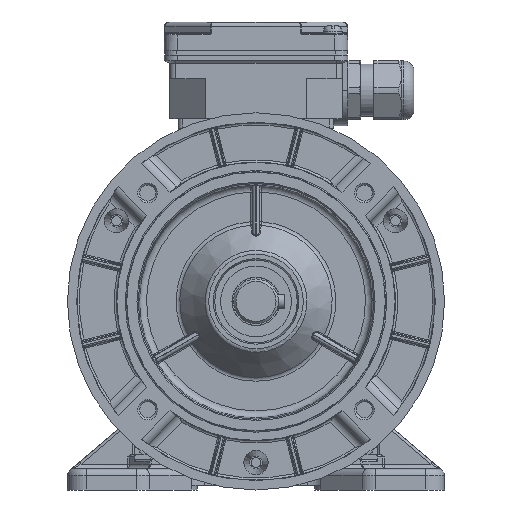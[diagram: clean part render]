
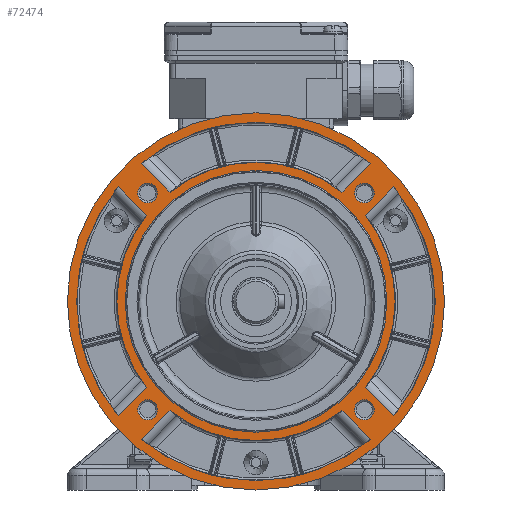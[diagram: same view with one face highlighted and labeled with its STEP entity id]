
A CAD part, left-side view. The second image highlights one B-rep face of the part: STEP entity #72474.
In plain terms, the highlighted planar face has unit normal (-1, 0, 0).
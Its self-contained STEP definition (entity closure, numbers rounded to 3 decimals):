
#4504=CIRCLE('',#76360,80.);
#4520=CIRCLE('',#76398,55.5);
#4521=CIRCLE('',#76399,4.2);
#4522=CIRCLE('',#76400,4.2);
#4523=CIRCLE('',#76401,4.2);
#4524=CIRCLE('',#76402,4.2);
#4525=CIRCLE('',#76403,59.);
#4526=CIRCLE('',#76404,76.);
#4527=CIRCLE('',#76405,59.);
#4528=CIRCLE('',#76406,76.);
#4529=CIRCLE('',#76407,59.);
#4530=CIRCLE('',#76408,76.);
#4531=CIRCLE('',#76409,59.);
#4532=CIRCLE('',#76410,76.);
#11924=ORIENTED_EDGE('',*,*,#25097,.T.);
#11925=ORIENTED_EDGE('',*,*,#25098,.T.);
#11926=ORIENTED_EDGE('',*,*,#25099,.T.);
#11927=ORIENTED_EDGE('',*,*,#25100,.T.);
#11928=ORIENTED_EDGE('',*,*,#25101,.T.);
#11929=ORIENTED_EDGE('',*,*,#25075,.T.);
#11930=ORIENTED_EDGE('',*,*,#25102,.T.);
#11931=ORIENTED_EDGE('',*,*,#25103,.T.);
#11932=ORIENTED_EDGE('',*,*,#25104,.F.);
#11933=ORIENTED_EDGE('',*,*,#25105,.F.);
#11934=ORIENTED_EDGE('',*,*,#25106,.T.);
#11935=ORIENTED_EDGE('',*,*,#25107,.F.);
#11936=ORIENTED_EDGE('',*,*,#25108,.F.);
#11937=ORIENTED_EDGE('',*,*,#25109,.T.);
#11938=ORIENTED_EDGE('',*,*,#25110,.T.);
#11939=ORIENTED_EDGE('',*,*,#25111,.T.);
#11940=ORIENTED_EDGE('',*,*,#25112,.F.);
#11941=ORIENTED_EDGE('',*,*,#25113,.F.);
#11942=ORIENTED_EDGE('',*,*,#25114,.T.);
#11943=ORIENTED_EDGE('',*,*,#25115,.T.);
#11944=ORIENTED_EDGE('',*,*,#25116,.F.);
#11945=ORIENTED_EDGE('',*,*,#25117,.F.);
#25075=EDGE_CURVE('',#32103,#32103,#4504,.T.);
#25097=EDGE_CURVE('',#32109,#32109,#4520,.F.);
#25098=EDGE_CURVE('',#32110,#32110,#4521,.F.);
#25099=EDGE_CURVE('',#32111,#32111,#4522,.F.);
#25100=EDGE_CURVE('',#32112,#32112,#4523,.F.);
#25101=EDGE_CURVE('',#32113,#32113,#4524,.F.);
#25102=EDGE_CURVE('',#32114,#32115,#36648,.T.);
#25103=EDGE_CURVE('',#32115,#32116,#4525,.T.);
#25104=EDGE_CURVE('',#32117,#32116,#36649,.T.);
#25105=EDGE_CURVE('',#32114,#32117,#4526,.T.);
#25106=EDGE_CURVE('',#32118,#32119,#4527,.T.);
#25107=EDGE_CURVE('',#32120,#32119,#36650,.T.);
#25108=EDGE_CURVE('',#32121,#32120,#4528,.T.);
#25109=EDGE_CURVE('',#32121,#32118,#36651,.T.);
#25110=EDGE_CURVE('',#32122,#32123,#36652,.T.);
#25111=EDGE_CURVE('',#32123,#32124,#4529,.T.);
#25112=EDGE_CURVE('',#32125,#32124,#36653,.T.);
#25113=EDGE_CURVE('',#32122,#32125,#4530,.T.);
#25114=EDGE_CURVE('',#32126,#32127,#36654,.T.);
#25115=EDGE_CURVE('',#32127,#32128,#4531,.T.);
#25116=EDGE_CURVE('',#32129,#32128,#36655,.T.);
#25117=EDGE_CURVE('',#32126,#32129,#4532,.T.);
#32103=VERTEX_POINT('',#107177);
#32109=VERTEX_POINT('',#107239);
#32110=VERTEX_POINT('',#107241);
#32111=VERTEX_POINT('',#107243);
#32112=VERTEX_POINT('',#107245);
#32113=VERTEX_POINT('',#107247);
#32114=VERTEX_POINT('',#107249);
#32115=VERTEX_POINT('',#107250);
#32116=VERTEX_POINT('',#107252);
#32117=VERTEX_POINT('',#107254);
#32118=VERTEX_POINT('',#107257);
#32119=VERTEX_POINT('',#107258);
#32120=VERTEX_POINT('',#107260);
#32121=VERTEX_POINT('',#107262);
#32122=VERTEX_POINT('',#107265);
#32123=VERTEX_POINT('',#107266);
#32124=VERTEX_POINT('',#107268);
#32125=VERTEX_POINT('',#107270);
#32126=VERTEX_POINT('',#107273);
#32127=VERTEX_POINT('',#107274);
#32128=VERTEX_POINT('',#107276);
#32129=VERTEX_POINT('',#107278);
#36648=LINE('',#107248,#40358);
#36649=LINE('',#107253,#40359);
#36650=LINE('',#107259,#40360);
#36651=LINE('',#107263,#40361);
#36652=LINE('',#107264,#40362);
#36653=LINE('',#107269,#40363);
#36654=LINE('',#107272,#40364);
#36655=LINE('',#107277,#40365);
#40358=VECTOR('',#84981,1000.);
#40359=VECTOR('',#84984,1000.);
#40360=VECTOR('',#84989,1000.);
#40361=VECTOR('',#84992,1000.);
#40362=VECTOR('',#84993,1000.);
#40363=VECTOR('',#84996,1000.);
#40364=VECTOR('',#84999,1000.);
#40365=VECTOR('',#85002,1000.);
#44085=EDGE_LOOP('',(#11924));
#44086=EDGE_LOOP('',(#11925));
#44087=EDGE_LOOP('',(#11926));
#44088=EDGE_LOOP('',(#11927));
#44089=EDGE_LOOP('',(#11928));
#44090=EDGE_LOOP('',(#11929));
#44091=EDGE_LOOP('',(#11930,#11931,#11932,#11933));
#44092=EDGE_LOOP('',(#11934,#11935,#11936,#11937));
#44093=EDGE_LOOP('',(#11938,#11939,#11940,#11941));
#44094=EDGE_LOOP('',(#11942,#11943,#11944,#11945));
#47640=FACE_BOUND('',#44085,.T.);
#47641=FACE_BOUND('',#44086,.T.);
#47642=FACE_BOUND('',#44087,.T.);
#47643=FACE_BOUND('',#44088,.T.);
#47644=FACE_BOUND('',#44089,.T.);
#47645=FACE_BOUND('',#44090,.T.);
#47646=FACE_BOUND('',#44091,.T.);
#47647=FACE_BOUND('',#44092,.T.);
#47648=FACE_BOUND('',#44093,.T.);
#47649=FACE_BOUND('',#44094,.T.);
#50451=PLANE('',#76397);
#72474=ADVANCED_FACE('',(#47640,#47641,#47642,#47643,#47644,#47645,#47646,
#47647,#47648,#47649),#50451,.T.);
#76360=AXIS2_PLACEMENT_3D('',#107176,#84891,#84892);
#76397=AXIS2_PLACEMENT_3D('',#107237,#84969,#84970);
#76398=AXIS2_PLACEMENT_3D('',#107238,#84971,#84972);
#76399=AXIS2_PLACEMENT_3D('',#107240,#84973,#84974);
#76400=AXIS2_PLACEMENT_3D('',#107242,#84975,#84976);
#76401=AXIS2_PLACEMENT_3D('',#107244,#84977,#84978);
#76402=AXIS2_PLACEMENT_3D('',#107246,#84979,#84980);
#76403=AXIS2_PLACEMENT_3D('',#107251,#84982,#84983);
#76404=AXIS2_PLACEMENT_3D('',#107255,#84985,#84986);
#76405=AXIS2_PLACEMENT_3D('',#107256,#84987,#84988);
#76406=AXIS2_PLACEMENT_3D('',#107261,#84990,#84991);
#76407=AXIS2_PLACEMENT_3D('',#107267,#84994,#84995);
#76408=AXIS2_PLACEMENT_3D('',#107271,#84997,#84998);
#76409=AXIS2_PLACEMENT_3D('',#107275,#85000,#85001);
#76410=AXIS2_PLACEMENT_3D('',#107279,#85003,#85004);
#84891=DIRECTION('',(-1.,0.,0.));
#84892=DIRECTION('',(0.,1.,0.));
#84969=DIRECTION('',(-1.,0.,0.));
#84970=DIRECTION('',(0.,-1.,0.));
#84971=DIRECTION('',(-1.,0.,0.));
#84972=DIRECTION('',(0.,-1.,0.));
#84973=DIRECTION('',(-1.,0.,0.));
#84974=DIRECTION('',(0.,-1.,0.));
#84975=DIRECTION('',(-1.,0.,0.));
#84976=DIRECTION('',(0.,-1.,0.));
#84977=DIRECTION('',(-1.,0.,0.));
#84978=DIRECTION('',(0.,-1.,0.));
#84979=DIRECTION('',(-1.,0.,0.));
#84980=DIRECTION('',(0.,-1.,0.));
#84981=DIRECTION('',(0.,0.707,0.707));
#84982=DIRECTION('',(-1.,0.,0.));
#84983=DIRECTION('',(0.,0.,1.));
#84984=DIRECTION('',(0.,0.707,-0.707));
#84985=DIRECTION('',(-1.,0.,0.));
#84986=DIRECTION('',(0.,0.,1.));
#84987=DIRECTION('',(-1.,0.,0.));
#84988=DIRECTION('',(0.,0.,1.));
#84989=DIRECTION('',(0.,0.707,0.707));
#84990=DIRECTION('',(-1.,0.,0.));
#84991=DIRECTION('',(0.,0.,1.));
#84992=DIRECTION('',(0.,-0.707,0.707));
#84993=DIRECTION('',(0.,0.707,-0.707));
#84994=DIRECTION('',(-1.,0.,0.));
#84995=DIRECTION('',(0.,0.,1.));
#84996=DIRECTION('',(0.,-0.707,-0.707));
#84997=DIRECTION('',(-1.,0.,0.));
#84998=DIRECTION('',(0.,0.,1.));
#84999=DIRECTION('',(0.,-0.707,-0.707));
#85000=DIRECTION('',(-1.,0.,0.));
#85001=DIRECTION('',(0.,0.,1.));
#85002=DIRECTION('',(0.,-0.707,0.707));
#85003=DIRECTION('',(-1.,0.,0.));
#85004=DIRECTION('',(0.,0.,1.));
#107176=CARTESIAN_POINT('',(-44.8,0.,0.));
#107177=CARTESIAN_POINT('',(-44.8,80.,0.));
#107237=CARTESIAN_POINT('',(-44.8,0.,0.));
#107238=CARTESIAN_POINT('',(-44.8,0.,0.));
#107239=CARTESIAN_POINT('',(-44.8,-55.5,0.));
#107240=CARTESIAN_POINT('',(-44.8,-45.962,-45.962));
#107241=CARTESIAN_POINT('',(-44.8,-50.162,-45.962));
#107242=CARTESIAN_POINT('',(-44.8,-45.962,45.962));
#107243=CARTESIAN_POINT('',(-44.8,-50.162,45.962));
#107244=CARTESIAN_POINT('',(-44.8,45.962,45.962));
#107245=CARTESIAN_POINT('',(-44.8,41.762,45.962));
#107246=CARTESIAN_POINT('',(-44.8,45.962,-45.962));
#107247=CARTESIAN_POINT('',(-44.8,41.762,-45.962));
#107248=CARTESIAN_POINT('',(-44.8,-70.057,-60.157));
#107249=CARTESIAN_POINT('',(-44.8,-58.461,-48.562));
#107250=CARTESIAN_POINT('',(-44.8,-46.374,-36.475));
#107251=CARTESIAN_POINT('',(-44.8,0.,0.));
#107252=CARTESIAN_POINT('',(-44.8,-46.374,36.475));
#107253=CARTESIAN_POINT('',(-44.8,-70.057,60.157));
#107254=CARTESIAN_POINT('',(-44.8,-58.461,48.562));
#107255=CARTESIAN_POINT('',(-44.8,0.,0.));
#107256=CARTESIAN_POINT('',(-44.8,0.,0.));
#107257=CARTESIAN_POINT('',(-44.8,36.475,-46.374));
#107258=CARTESIAN_POINT('',(-44.8,-36.475,-46.374));
#107259=CARTESIAN_POINT('',(-44.8,-60.157,-70.057));
#107260=CARTESIAN_POINT('',(-44.8,-48.562,-58.461));
#107261=CARTESIAN_POINT('',(-44.8,0.,0.));
#107262=CARTESIAN_POINT('',(-44.8,48.562,-58.461));
#107263=CARTESIAN_POINT('',(-44.8,60.157,-70.057));
#107264=CARTESIAN_POINT('',(-44.8,-60.157,70.057));
#107265=CARTESIAN_POINT('',(-44.8,-48.562,58.461));
#107266=CARTESIAN_POINT('',(-44.8,-36.475,46.374));
#107267=CARTESIAN_POINT('',(-44.8,0.,0.));
#107268=CARTESIAN_POINT('',(-44.8,36.475,46.374));
#107269=CARTESIAN_POINT('',(-44.8,60.157,70.057));
#107270=CARTESIAN_POINT('',(-44.8,48.562,58.461));
#107271=CARTESIAN_POINT('',(-44.8,0.,0.));
#107272=CARTESIAN_POINT('',(-44.8,70.057,60.157));
#107273=CARTESIAN_POINT('',(-44.8,58.461,48.562));
#107274=CARTESIAN_POINT('',(-44.8,46.374,36.475));
#107275=CARTESIAN_POINT('',(-44.8,0.,0.));
#107276=CARTESIAN_POINT('',(-44.8,46.374,-36.475));
#107277=CARTESIAN_POINT('',(-44.8,70.057,-60.157));
#107278=CARTESIAN_POINT('',(-44.8,58.461,-48.562));
#107279=CARTESIAN_POINT('',(-44.8,0.,0.));
